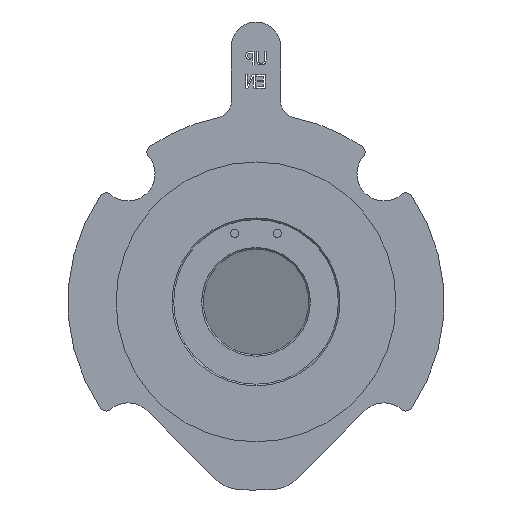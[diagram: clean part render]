
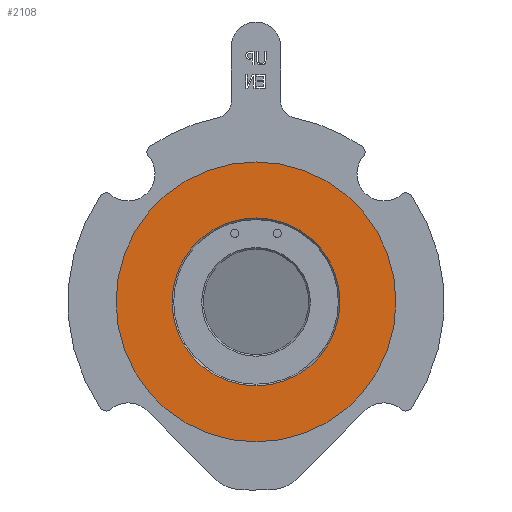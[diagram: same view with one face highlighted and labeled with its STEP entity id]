
A CAD part, front view. The second image highlights one B-rep face of the part: STEP entity #2108.
In plain terms, the highlighted planar face has unit normal (0, -1, 0).
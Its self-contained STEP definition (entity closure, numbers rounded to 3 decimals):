
#147=FACE_BOUND('',#492,.T.);
#232=CIRCLE('',#2285,25.5);
#233=CIRCLE('',#2287,42.5);
#344=FACE_OUTER_BOUND('',#491,.T.);
#491=EDGE_LOOP('',(#1854));
#492=EDGE_LOOP('',(#1855));
#1045=VERTEX_POINT('',#3652);
#1046=VERTEX_POINT('',#3655);
#1326=EDGE_CURVE('',#1045,#1045,#232,.T.);
#1327=EDGE_CURVE('',#1046,#1046,#233,.T.);
#1854=ORIENTED_EDGE('',*,*,#1327,.T.);
#1855=ORIENTED_EDGE('',*,*,#1326,.F.);
#2001=PLANE('',#2286);
#2108=ADVANCED_FACE('',(#344,#147),#2001,.F.);
#2285=AXIS2_PLACEMENT_3D('',#3653,#2771,#2772);
#2286=AXIS2_PLACEMENT_3D('',#3654,#2773,#2774);
#2287=AXIS2_PLACEMENT_3D('',#3656,#2775,#2776);
#2771=DIRECTION('center_axis',(0.,-1.,0.));
#2772=DIRECTION('ref_axis',(0.,0.,-1.));
#2773=DIRECTION('center_axis',(0.,1.,0.));
#2774=DIRECTION('ref_axis',(0.,0.,1.));
#2775=DIRECTION('center_axis',(0.,-1.,0.));
#2776=DIRECTION('ref_axis',(1.,0.,0.));
#3652=CARTESIAN_POINT('',(0.,-31.5,25.5));
#3653=CARTESIAN_POINT('Origin',(0.,-31.5,0.));
#3654=CARTESIAN_POINT('Origin',(0.,-31.5,0.));
#3655=CARTESIAN_POINT('',(-42.5,-31.5,0.));
#3656=CARTESIAN_POINT('Origin',(0.,-31.5,0.));
